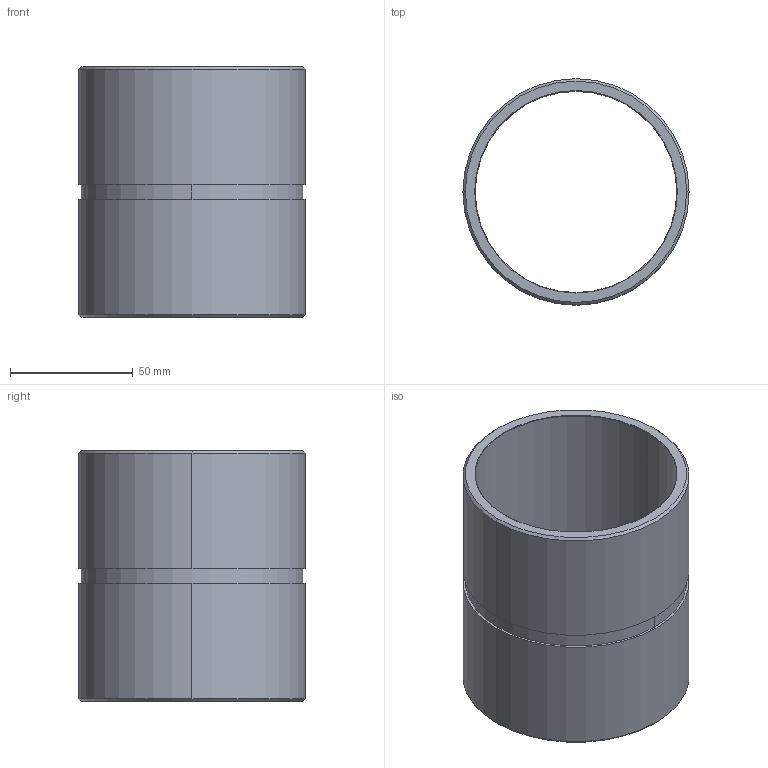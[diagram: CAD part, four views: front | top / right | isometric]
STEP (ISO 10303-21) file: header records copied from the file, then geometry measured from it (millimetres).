
FILE_DESCRIPTION(('CATIA V5 STEP','CAx-IF Rec.Pracs.--- Model Styling and Organization---1.4--- 2014-01-23','CAx-IF Rec.Pracs.---3D Tessellated Data Validation Properties---0.5---2014-09-14'),'2;1');
FILE_NAME('\\GSBFILE\data\URETIM\3D DATALAR\2016\KALIP ELEMANLARI\C KODLARI\C104-02\C104-02-090-100.stp','2019-08-06T07:46:05+00:00',('none'),('none'),'CATIA Version 5-6 Release 2016 SP6 HF8','CATIA V5 STEP AP242','none');
FILE_SCHEMA(('AP242_MANAGED_MODEL_BASED_3D_ENGINEERING_MIM_LF {1 0 10303 442 1 1 4}'));
Length unit declared in the file: millimetre
Products named in the file (1): Part1
Bounding box: 92 x 92 x 102 mm (x, y, z)
Volume: 137379.9 mm3; surface area: 58622.8 mm2
Topology: 1 solids, 1 shells, 20 faces, 40 edges, 24 vertices
Faces by surface type: cone 8, cylinder 8, plane 4
Entity records: 500 total; most frequent: CARTESIAN_POINT 80, ORIENTED_EDGE 80, DIRECTION 70, AXIS2_PLACEMENT_3D 40, EDGE_CURVE 40, CIRCLE 24, EDGE_LOOP 24, VERTEX_POINT 24
